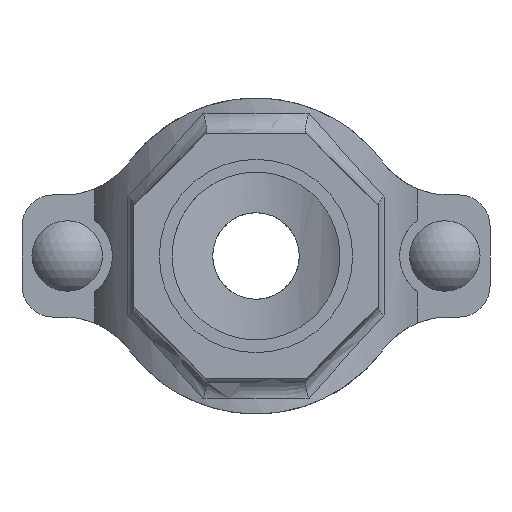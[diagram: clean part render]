
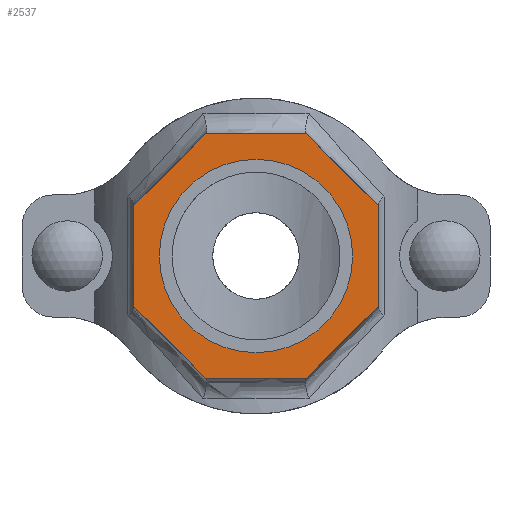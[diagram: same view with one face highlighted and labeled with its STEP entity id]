
A CAD part, front view. The second image highlights one B-rep face of the part: STEP entity #2537.
In plain terms, the highlighted planar face has unit normal (0, -1, 0) as drawn and (0, 1, 0) by its records, which use the part's own axes.
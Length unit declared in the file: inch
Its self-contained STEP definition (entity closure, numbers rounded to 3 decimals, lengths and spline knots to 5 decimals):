
#186=FACE_BOUND('',#457,.T.);
#305=FACE_OUTER_BOUND('',#456,.T.);
#456=EDGE_LOOP('',(#2126,#2127,#2128,#2129,#2130,#2131,#2132,#2133));
#457=EDGE_LOOP('',(#2134));
#594=LINE('',#4635,#780);
#597=LINE('',#4640,#783);
#599=LINE('',#4644,#785);
#601=LINE('',#4648,#787);
#637=LINE('',#5069,#823);
#639=LINE('',#5073,#825);
#641=LINE('',#5077,#827);
#643=LINE('',#5080,#829);
#780=VECTOR('',#3278,0.3937);
#783=VECTOR('',#3283,0.3937);
#785=VECTOR('',#3287,0.3937);
#787=VECTOR('',#3291,0.3937);
#823=VECTOR('',#3415,0.3937);
#825=VECTOR('',#3419,0.3937);
#827=VECTOR('',#3423,0.3937);
#829=VECTOR('',#3427,0.3937);
#915=CIRCLE('',#2798,1.1875);
#1097=VERTEX_POINT('',#4632);
#1098=VERTEX_POINT('',#4634);
#1099=VERTEX_POINT('',#4638);
#1100=VERTEX_POINT('',#4642);
#1101=VERTEX_POINT('',#4646);
#1132=VERTEX_POINT('',#4918);
#1156=VERTEX_POINT('',#5068);
#1157=VERTEX_POINT('',#5072);
#1158=VERTEX_POINT('',#5076);
#1408=EDGE_CURVE('',#1098,#1097,#594,.T.);
#1411=EDGE_CURVE('',#1097,#1099,#597,.T.);
#1413=EDGE_CURVE('',#1099,#1100,#599,.T.);
#1415=EDGE_CURVE('',#1100,#1101,#601,.T.);
#1457=EDGE_CURVE('',#1132,#1132,#915,.T.);
#1489=EDGE_CURVE('',#1156,#1098,#637,.T.);
#1491=EDGE_CURVE('',#1157,#1156,#639,.T.);
#1493=EDGE_CURVE('',#1158,#1157,#641,.T.);
#1495=EDGE_CURVE('',#1101,#1158,#643,.T.);
#2126=ORIENTED_EDGE('',*,*,#1495,.T.);
#2127=ORIENTED_EDGE('',*,*,#1493,.T.);
#2128=ORIENTED_EDGE('',*,*,#1491,.T.);
#2129=ORIENTED_EDGE('',*,*,#1489,.T.);
#2130=ORIENTED_EDGE('',*,*,#1408,.T.);
#2131=ORIENTED_EDGE('',*,*,#1411,.T.);
#2132=ORIENTED_EDGE('',*,*,#1413,.T.);
#2133=ORIENTED_EDGE('',*,*,#1415,.T.);
#2134=ORIENTED_EDGE('',*,*,#1457,.T.);
#2278=PLANE('',#2821);
#2537=ADVANCED_FACE('',(#305,#186),#2278,.T.);
#2798=AXIS2_PLACEMENT_3D('',#4919,#3361,#3362);
#2821=AXIS2_PLACEMENT_3D('',#5081,#3428,#3429);
#3278=DIRECTION('',(0.,0.,1.));
#3283=DIRECTION('',(0.707,0.,0.707));
#3287=DIRECTION('',(1.,0.,0.));
#3291=DIRECTION('',(0.707,0.,-0.707));
#3361=DIRECTION('center_axis',(0.,-1.,0.));
#3362=DIRECTION('ref_axis',(-1.,0.,0.));
#3415=DIRECTION('',(-0.707,0.,0.707));
#3419=DIRECTION('',(-1.,0.,0.));
#3423=DIRECTION('',(-0.707,0.,-0.707));
#3427=DIRECTION('',(0.,0.,-1.));
#3428=DIRECTION('center_axis',(0.,1.,0.));
#3429=DIRECTION('ref_axis',(0.,0.,1.));
#4632=CARTESIAN_POINT('',(-1.5,3.5,0.62132));
#4634=CARTESIAN_POINT('',(-1.5,3.5,-0.62132));
#4635=CARTESIAN_POINT('',(-1.5,3.5,0.62132));
#4638=CARTESIAN_POINT('',(-0.62132,3.5,1.5));
#4640=CARTESIAN_POINT('',(-0.62132,3.5,1.5));
#4642=CARTESIAN_POINT('',(0.62132,3.5,1.5));
#4644=CARTESIAN_POINT('',(0.62132,3.5,1.5));
#4646=CARTESIAN_POINT('',(1.5,3.5,0.62132));
#4648=CARTESIAN_POINT('',(1.5,3.5,0.62132));
#4918=CARTESIAN_POINT('',(1.1875,3.5,0.));
#4919=CARTESIAN_POINT('Origin',(0.,3.5,0.));
#5068=CARTESIAN_POINT('',(-0.62132,3.5,-1.5));
#5069=CARTESIAN_POINT('',(-1.5,3.5,-0.62132));
#5072=CARTESIAN_POINT('',(0.62132,3.5,-1.5));
#5073=CARTESIAN_POINT('',(-0.62132,3.5,-1.5));
#5076=CARTESIAN_POINT('',(1.5,3.5,-0.62132));
#5077=CARTESIAN_POINT('',(0.62132,3.5,-1.5));
#5080=CARTESIAN_POINT('',(1.5,3.5,-0.62132));
#5081=CARTESIAN_POINT('Origin',(0.,3.5,0.));
